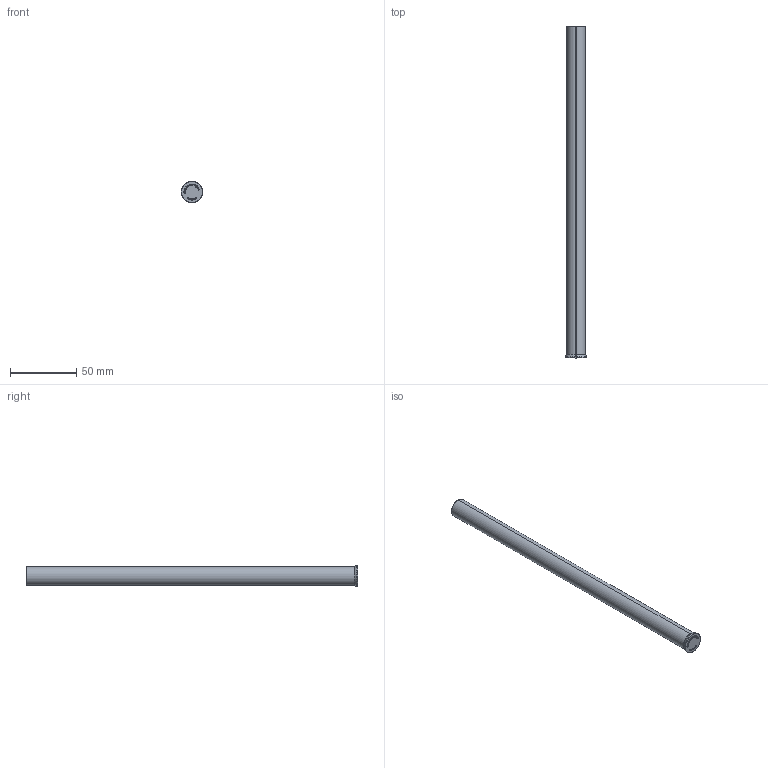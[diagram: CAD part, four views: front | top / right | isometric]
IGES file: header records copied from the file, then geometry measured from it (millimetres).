
Start section: SolidWorks IGES file using analytic representation for surfaces
Global section: file name: D:\Cleonir_particular\Matripeças\Pinos Extradores D DIN 1530\PD14,0250.IGS; native system: SolidWorks 2013; preprocessor: SolidWorks 2013; author: Cleonir; date: 130304.143945; units: millimetre
Bounding box: 16 x 250 x 16 mm (x, y, z)
Surface area: 11401 mm2 (no closed solid volume)
Topology: 0 solids, 0 shells, 290 faces, 2861 edges, 2861 vertices
Faces by surface type: bspline 276, revolution 14
